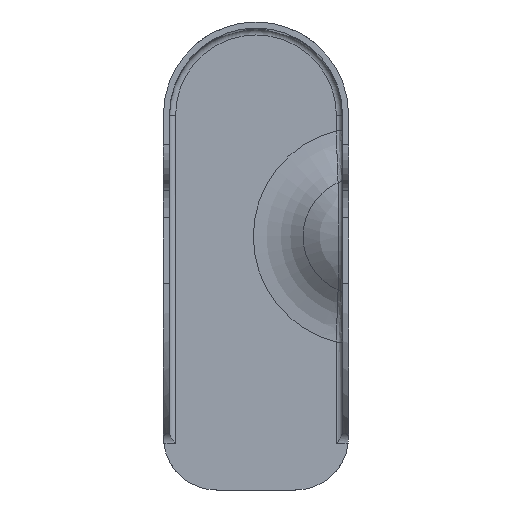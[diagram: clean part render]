
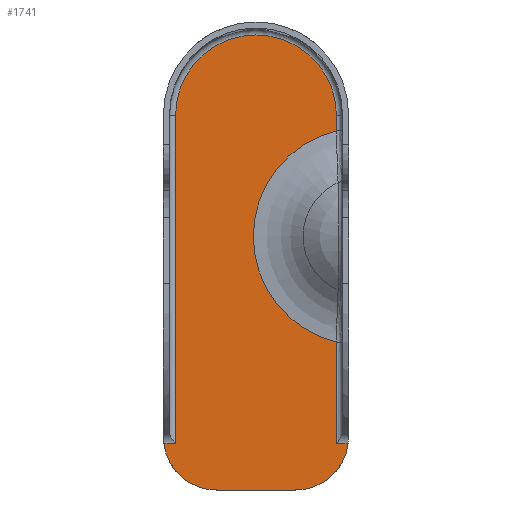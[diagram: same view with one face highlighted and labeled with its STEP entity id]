
A CAD part, top view. The second image highlights one B-rep face of the part: STEP entity #1741.
In plain terms, the highlighted planar face has unit normal (0, 0, 1).
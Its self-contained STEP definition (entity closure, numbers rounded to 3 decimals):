
#75=PLANE('',#1842);
#112=FACE_OUTER_BOUND('',#189,.T.);
#189=EDGE_LOOP('',(#1173,#1174,#1175,#1176,#1177,#1178,#1179,#1180,#1181,
#1182));
#320=CIRCLE('',#1828,26.6);
#328=CIRCLE('',#1841,35.906);
#329=CIRCLE('',#1843,17.5);
#330=CIRCLE('',#1844,17.5);
#382=LINE('',#2324,#458);
#385=LINE('',#2344,#461);
#387=LINE('',#2436,#463);
#388=LINE('',#2453,#464);
#389=LINE('',#2455,#465);
#390=LINE('',#2459,#466);
#458=VECTOR('',#1963,10.);
#461=VECTOR('',#1980,10.);
#463=VECTOR('',#1996,10.);
#464=VECTOR('',#2007,10.);
#465=VECTOR('',#2008,10.);
#466=VECTOR('',#2011,10.);
#666=VERTEX_POINT('',#2311);
#668=VERTEX_POINT('',#2323);
#671=VERTEX_POINT('',#2334);
#673=VERTEX_POINT('',#2340);
#679=VERTEX_POINT('',#2414);
#683=VERTEX_POINT('',#2435);
#684=VERTEX_POINT('',#2452);
#685=VERTEX_POINT('',#2454);
#686=VERTEX_POINT('',#2456);
#687=VERTEX_POINT('',#2458);
#865=EDGE_CURVE('',#666,#668,#382,.T.);
#871=EDGE_CURVE('',#668,#671,#320,.T.);
#874=EDGE_CURVE('',#671,#673,#385,.T.);
#886=EDGE_CURVE('',#679,#683,#387,.T.);
#889=EDGE_CURVE('',#673,#679,#328,.T.);
#890=EDGE_CURVE('',#684,#683,#388,.T.);
#891=EDGE_CURVE('',#666,#685,#389,.T.);
#892=EDGE_CURVE('',#685,#686,#329,.T.);
#893=EDGE_CURVE('',#686,#687,#390,.T.);
#894=EDGE_CURVE('',#687,#684,#330,.T.);
#1173=ORIENTED_EDGE('',*,*,#890,.T.);
#1174=ORIENTED_EDGE('',*,*,#886,.F.);
#1175=ORIENTED_EDGE('',*,*,#889,.F.);
#1176=ORIENTED_EDGE('',*,*,#874,.F.);
#1177=ORIENTED_EDGE('',*,*,#871,.F.);
#1178=ORIENTED_EDGE('',*,*,#865,.F.);
#1179=ORIENTED_EDGE('',*,*,#891,.T.);
#1180=ORIENTED_EDGE('',*,*,#892,.T.);
#1181=ORIENTED_EDGE('',*,*,#893,.T.);
#1182=ORIENTED_EDGE('',*,*,#894,.T.);
#1741=ADVANCED_FACE('',(#112),#75,.T.);
#1828=AXIS2_PLACEMENT_3D('',#2338,#1973,#1974);
#1841=AXIS2_PLACEMENT_3D('',#2450,#2003,#2004);
#1842=AXIS2_PLACEMENT_3D('',#2451,#2005,#2006);
#1843=AXIS2_PLACEMENT_3D('',#2457,#2009,#2010);
#1844=AXIS2_PLACEMENT_3D('',#2460,#2012,#2013);
#1963=DIRECTION('',(0.,1.,0.));
#1973=DIRECTION('center_axis',(0.,0.,-1.));
#1974=DIRECTION('ref_axis',(0.,1.,0.));
#1980=DIRECTION('',(0.,-1.,0.));
#1996=DIRECTION('',(0.,-1.,0.));
#2003=DIRECTION('center_axis',(0.,0.,1.));
#2004=DIRECTION('ref_axis',(-1.,0.,0.));
#2005=DIRECTION('center_axis',(0.,0.,1.));
#2006=DIRECTION('ref_axis',(1.,0.,0.));
#2007=DIRECTION('',(-1.,0.,0.));
#2008=DIRECTION('',(-1.,0.,0.));
#2009=DIRECTION('center_axis',(0.,0.,1.));
#2010=DIRECTION('ref_axis',(1.,0.,0.));
#2011=DIRECTION('',(1.,0.,0.));
#2012=DIRECTION('center_axis',(0.,0.,1.));
#2013=DIRECTION('ref_axis',(1.,0.,0.));
#2311=CARTESIAN_POINT('',(-26.6,-108.491,2.));
#2323=CARTESIAN_POINT('',(-26.6,0.,2.));
#2324=CARTESIAN_POINT('',(-26.6,-30.058,2.));
#2334=CARTESIAN_POINT('',(26.6,0.,2.));
#2338=CARTESIAN_POINT('Origin',(0.,0.,2.));
#2340=CARTESIAN_POINT('',(26.6,-5.09,2.));
#2344=CARTESIAN_POINT('',(26.6,-23.808,2.));
#2414=CARTESIAN_POINT('',(26.6,-74.91,2.));
#2435=CARTESIAN_POINT('',(26.6,-108.491,2.));
#2436=CARTESIAN_POINT('',(26.6,-23.808,2.));
#2450=CARTESIAN_POINT('Origin',(35.,-40.,2.));
#2451=CARTESIAN_POINT('Origin',(0.,-47.615,2.));
#2452=CARTESIAN_POINT('',(30.466,-108.491,2.));
#2453=CARTESIAN_POINT('',(14.3,-108.491,2.));
#2454=CARTESIAN_POINT('',(-30.466,-108.491,2.));
#2455=CARTESIAN_POINT('',(-15.3,-108.491,2.));
#2456=CARTESIAN_POINT('',(-13.1,-123.83,2.));
#2457=CARTESIAN_POINT('Origin',(-13.1,-106.33,2.));
#2458=CARTESIAN_POINT('',(13.1,-123.83,2.));
#2459=CARTESIAN_POINT('',(-13.1,-123.83,2.));
#2460=CARTESIAN_POINT('Origin',(13.1,-106.33,2.));
